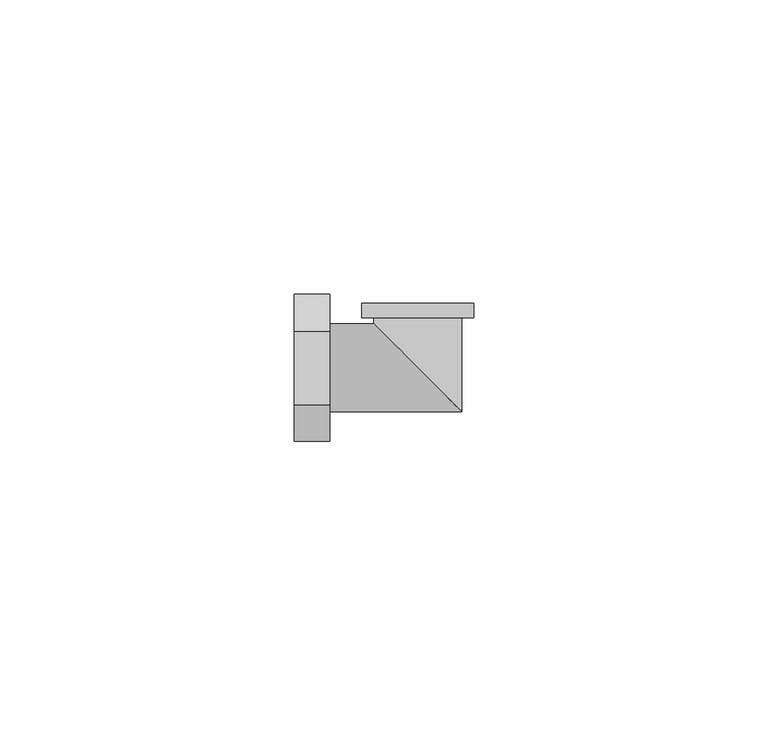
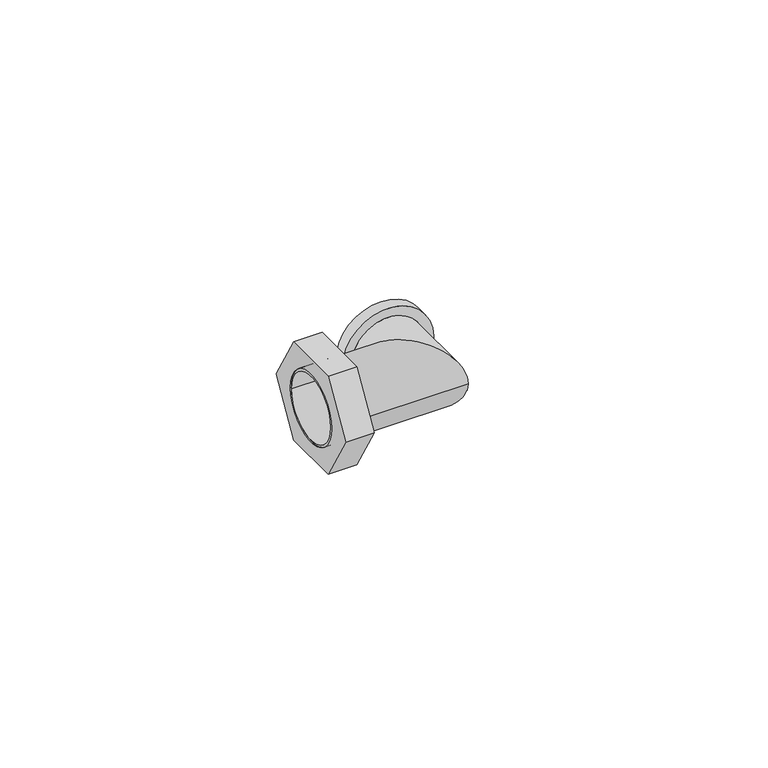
"""IFC4 building model written with IfcOpenShell, lengths in millimetres: pipe fitting geometry, БИР ПЕКС_НПР_Угольник_Гайка накидная : Угольник с накидной гайкой."""

from ifc_helpers import new_model, si_unit, point, frame, origin, origin_2d, place, context, project, spatial, polyline, circle_curve, ellipse_curve, trimmed, segment, composite_curve, outline, extrude, source, transform, mapped, element, save
from ifc_brep_helpers import plane_surface, cylinder_surface, revolved_surface, advanced_brep


def pipe_fitting_f23136e4(model_context):
    return source(origin(), model_context, "Body", "SolidModel", [
        extrude(outline(polyline([(-6.25, -10.8253175), (-12.5, 0.0), (-6.25, 10.8253175), (6.25, 10.8253175), (12.5, 0.0), (6.25, -10.8253175), (-6.25, -10.8253175)]), holes=[composite_curve([segment(trimmed(circle_curve(origin_2d(), 7.5), [point((-7.5, 0.0))], [point((7.5, 0.0))], True, "CARTESIAN"), True, "CONTINUOUS"), segment(trimmed(circle_curve(origin_2d(), 7.5), [point((7.5, 0.0))], [point((-7.5, 0.0))], True, "CARTESIAN"), True, "CONTINUOUS")], self_intersect=False)]), frame((-21.0, 0.0, 0.0), z_axis=(1.0, 0.0, 0.0), x_axis=(0.0, 1.0, 0.0)), (0.0, 0.0, 1.0), 6.0),
        advanced_brep(
        [(-21.0, -7.5, 0.0), (-21.0, 7.5, 0.0), (-21.0, -7.0, 0.0), (-21.0, 7.0, 0.0), (7.5, -7.5, 0.0), (-7.5, 7.5, 0.0), (-9.5, 11.0, 0.0), (9.5, 11.0, 0.0), (7.0, 11.0, 0.0), (-7.0, 11.0, 0.0), (7.5, 8.5, 0.0), (-7.5, 8.5, 0.0), (-9.5, 8.5, 0.0), (9.5, 8.5, 0.0), (7.0, -7.0, 0.0), (-7.0, 7.0, 0.0), (-7.0, 8.5, 0.0), (7.0, 8.5, 0.0)],
        [
            (0, 1, circle_curve(frame((-21.0, 0.0, 0.0), z_axis=(-1.0, 0.0, 0.0), x_axis=(0.0, 1.0, 0.0)), 7.5)),
            (1, 0, circle_curve(frame((-21.0, 0.0, 0.0), z_axis=(-1.0, 0.0, 0.0), x_axis=(0.0, 1.0, 0.0)), 7.5)),
            (2, 3, circle_curve(frame((-21.0, 0.0, 0.0), z_axis=(1.0, 0.0, 0.0), x_axis=(0.0, 1.0, 0.0)), 7.0)),
            (3, 2, circle_curve(frame((-21.0, 0.0, 0.0), z_axis=(1.0, 0.0, 0.0), x_axis=(0.0, 1.0, 0.0)), 7.0)),
            (0, 4),
            (4, 5, ellipse_curve(frame((0.0, 0.0, 0.0), z_axis=(-0.7071067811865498, -0.7071067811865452, 0.0), x_axis=(-0.7071067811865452, 0.7071067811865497, 0.0)), 10.6066017, 7.5)),
            (5, 1),
            (5, 4, ellipse_curve(frame((0.0, 0.0, 0.0), z_axis=(-0.7071067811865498, -0.7071067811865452, 0.0), x_axis=(-0.7071067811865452, 0.7071067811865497, 0.0)), 10.6066017, 7.5)),
            (6, 7, circle_curve(frame((0.0, 11.0, 0.0), z_axis=(0.0, 1.0, 0.0), x_axis=(1.0, 0.0, 0.0)), 9.5)),
            (7, 6, circle_curve(frame((0.0, 11.0, 0.0), z_axis=(0.0, 1.0, 0.0), x_axis=(1.0, 0.0, 0.0)), 9.5)),
            (8, 9, circle_curve(frame((0.0, 11.0, 0.0), z_axis=(0.0, -1.0, 0.0), x_axis=(-1.0, 0.0, 0.0)), 7.0)),
            (9, 8, circle_curve(frame((0.0, 11.0, 0.0), z_axis=(0.0, -1.0, 0.0), x_axis=(-1.0, 0.0, 0.0)), 7.0)),
            (4, 10),
            (10, 11, circle_curve(frame((0.0, 8.5, 0.0), z_axis=(0.0, -1.0, 0.0), x_axis=(-1.0, 0.0, 0.0)), 7.5)),
            (11, 5),
            (11, 10, circle_curve(frame((0.0, 8.5, 0.0), z_axis=(0.0, -1.0, 0.0), x_axis=(-1.0, 0.0, 0.0)), 7.5)),
            (12, 13, circle_curve(frame((0.0, 8.5, 0.0), z_axis=(0.0, -1.0, 0.0), x_axis=(1.0, 0.0, 0.0)), 9.5)),
            (13, 12, circle_curve(frame((0.0, 8.5, 0.0), z_axis=(0.0, -1.0, 0.0), x_axis=(1.0, 0.0, 0.0)), 9.5)),
            (12, 6),
            (7, 13),
            (2, 14),
            (14, 15, ellipse_curve(frame((0.0, 0.0, 0.0), z_axis=(0.7071067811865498, 0.7071067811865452, 0.0), x_axis=(0.7071067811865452, -0.7071067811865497, 0.0)), 9.8994949, 7.0)),
            (15, 3),
            (15, 14, ellipse_curve(frame((0.0, 0.0, 0.0), z_axis=(0.7071067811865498, 0.7071067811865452, 0.0), x_axis=(0.7071067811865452, -0.7071067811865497, 0.0)), 9.8994949, 7.0)),
            (9, 16),
            (16, 15),
            (14, 17),
            (17, 8),
        ],
        [
            plane_surface(frame((-21.0, 0.0, 0.0), z_axis=(-1.0, 0.0, 0.0), x_axis=(0.0, 0.0, 1.0))),
            cylinder_surface(frame((-21.0, 0.0, 0.0), z_axis=(-1.0, 0.0, 0.0), x_axis=(0.0, 1.0, 0.0)), 7.5),
            plane_surface(frame((0.0, 11.0, 0.0), z_axis=(0.0, 1.0, 0.0), x_axis=(0.0, 0.0, 1.0))),
            cylinder_surface(frame((0.0, 0.0, 0.0), z_axis=(0.0, -1.0, 0.0), x_axis=(-1.0, 0.0, 0.0)), 7.5),
            plane_surface(frame((9.5, 8.5, 0.0), z_axis=(0.0, -1.0, 0.0), x_axis=(0.0, 0.0, 1.0))),
            cylinder_surface(frame((0.0, 11.0, 0.0), z_axis=(0.0, -1.0, 0.0), x_axis=(1.0, 0.0, 0.0)), 9.5),
            revolved_surface(polyline([(7.0, 7.0, 0.0), (-21.0, 7.0, 0.0)]), (-21.0, 0.0, 0.0), (1.0, 0.0, 0.0)),
            revolved_surface(polyline([(-7.0, 11.0, 0.0), (-7.0, -7.0, 0.0)]), (0.0, 0.0, 0.0), (0.0, 1.0, 0.0)),
        ],
        [
            (0, [[1, 2], [3, 4]]),
            (1, [[-1, 5, 6, 7]]),
            (1, [[-2, -7, 8, -5]]),
            (2, [[9, 10], [11, 12]]),
            (3, [[-6, 13, 14, 15]]),
            (3, [[-8, -15, 16, -13]]),
            (4, [[17, 18], [-14, -16]]),
            (5, [[-17, 19, -10, 20]]),
            (5, [[-18, -20, -9, -19]]),
            (6, [[-3, 21, 22, 23]]),
            (6, [[-4, -23, 24, -21]]),
            (7, [[-12, 25, 26, -22, 27, 28]]),
            (7, [[-11, -28, -27, -24, -26, -25]]),
        ],
    ),
    ])


if __name__ == "__main__":
    model = new_model("IFC4")
    model_context = context("Model", 3, world=origin())
    ifc_project = project(units=[si_unit("LENGTHUNIT", "METRE", prefix="MILLI")], contexts=[model_context])
    site = spatial("IfcSite", under=ifc_project)
    building = spatial("IfcBuilding", under=site)
    placement = place(None, origin())
    pipe_fitting_shape = pipe_fitting_f23136e4(model_context)
    element("IfcPipeFitting", 1, ObjectType="БИР ПЕКС_НПР_Угольник_Гайка накидная : Угольник с накидной гайкой", at=placement, inside=building, context=model_context, shape_type="MappedRepresentation", body=[
        mapped(pipe_fitting_shape, transform((0.0, 0.0, 0.0), x_axis=(1.0, 0.0, 0.0), y_axis=(0.0, 1.0, 0.0), z_axis=(0.0, 0.0, 1.0))),
    ])
    save(model, "model.ifc")
